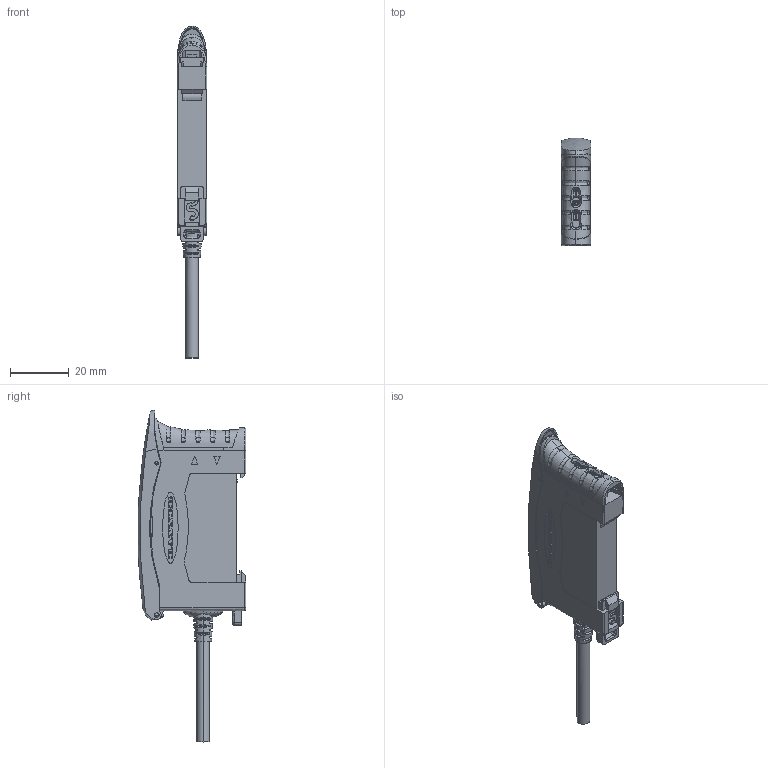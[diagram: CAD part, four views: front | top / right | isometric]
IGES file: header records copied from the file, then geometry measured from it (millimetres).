
Start section: SolidWorks IGES file using analytic representation for surfaces
Global section: file name: S:\Product Visuals\Defeatured Models and Parts Library\Parts Library IGES & STEP\Control and Monitoring\d-10-amplifier\d-10 amplifier.IGS; native system: SolidWorks 2012; preprocessor: SolidWorks 2012; author: rachel.dressel; date: 121018.100617; units: inch
Bounding box: 10.1 x 36.53 x 112.57 mm (x, y, z)
Volume: 8438.5 mm3; surface area: 15236.1 mm2
Topology: 1 solids, 1 shells, 1584 faces, 4497 edges, 2910 vertices
Faces by surface type: plane 720, bspline 558, revolution 306
